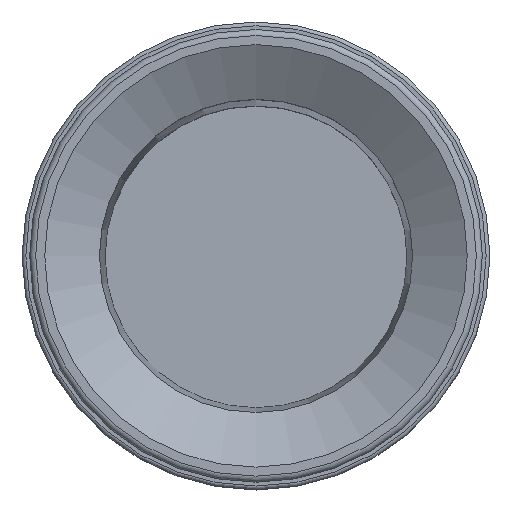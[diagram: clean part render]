
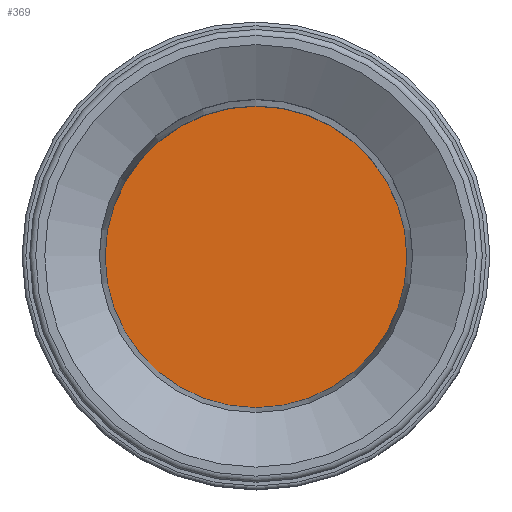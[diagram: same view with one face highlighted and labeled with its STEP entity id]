
A CAD part, top view. The second image highlights one B-rep face of the part: STEP entity #369.
In plain terms, the highlighted planar face has unit normal (0, 0, 1) as drawn and (0, 0, -1) by its records, which use the part's own axes.
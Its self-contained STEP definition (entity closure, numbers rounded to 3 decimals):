
#369=ADVANCED_FACE('',(#571),#572,.F.);
#571=FACE_OUTER_BOUND('',#903,.T.);
#572=PLANE('',#904);
#903=EDGE_LOOP('',(#1424));
#904=AXIS2_PLACEMENT_3D('',#1425,#1426,#1427);
#1424=ORIENTED_EDGE('',*,*,#2131,.T.);
#1425=CARTESIAN_POINT('',(-20.0,0.,95.3));
#1426=DIRECTION('',(0.0,0.,1.0));
#1427=DIRECTION('',(0.0,-1.0,0.));
#2131=EDGE_CURVE('',#2463,#2463,#2464,.T.);
#2463=VERTEX_POINT('',#3034);
#2464=CIRCLE('',#3035,20.0);
#3034=CARTESIAN_POINT('',(0.0,20.0,95.3));
#3035=AXIS2_PLACEMENT_3D('',#3734,#3735,#3736);
#3734=CARTESIAN_POINT('',(0.0,0.,95.3));
#3735=DIRECTION('',(0.0,0.,-1.0));
#3736=DIRECTION('',(0.0,1.0,0.));
